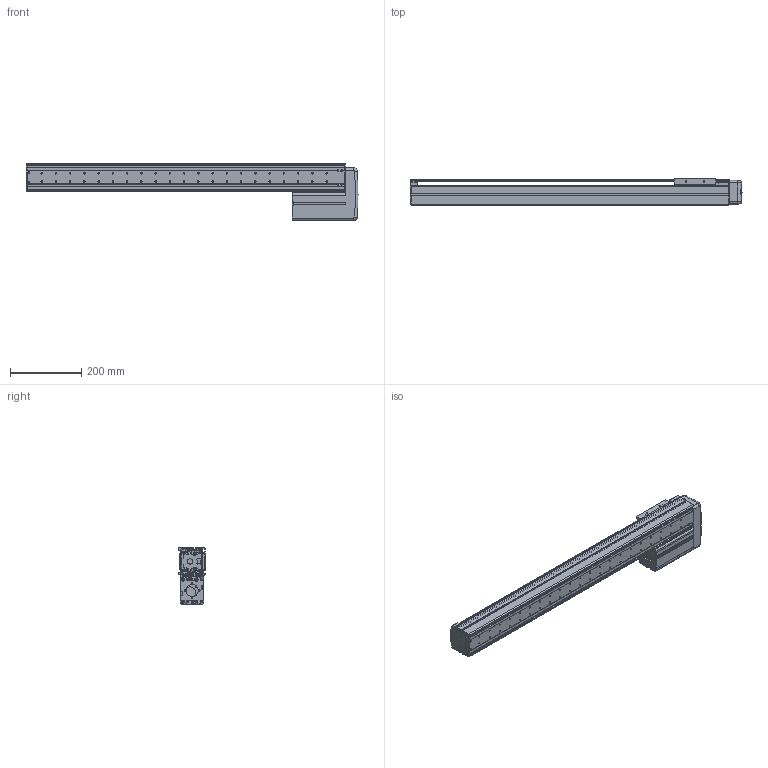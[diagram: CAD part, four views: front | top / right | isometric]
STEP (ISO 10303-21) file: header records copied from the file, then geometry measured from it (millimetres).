
FILE_DESCRIPTION((''),'2;1');
FILE_NAME('BE10E-UL-M_N-70_IGS_PRT','2017-06-17T',(' '),(''),'PRO/ENGINEER BY PARAMETRIC TECHNOLOGY CORPORATION, 2015030','PRO/ENGINEER BY PARAMETRIC TECHNOLOGY CORPORATION, 2015030','');
FILE_SCHEMA(('CONFIG_CONTROL_DESIGN'));
Length unit declared in the file: millimetre
Products named in the file (1): BE10E-UL-M_N-70_IGS_PRT
Bounding box: 932 x 75 x 160 mm (x, y, z)
Volume: 1356319.9 mm3; surface area: 921273.5 mm2
Topology: 2 solids, 119 shells, 1824 faces, 4926 edges, 3208 vertices
Faces by surface type: cylinder 881, plane 715, cone 81, torus 71, sphere 44, bspline 32
Entity records: 59646 total; most frequent: CARTESIAN_POINT 12575, DIRECTION 10224, ORIENTED_EDGE 9334, EDGE_CURVE 4890, AXIS2_PLACEMENT_3D 3833, VERTEX_POINT 3208, VECTOR 2558, LINE 2558
